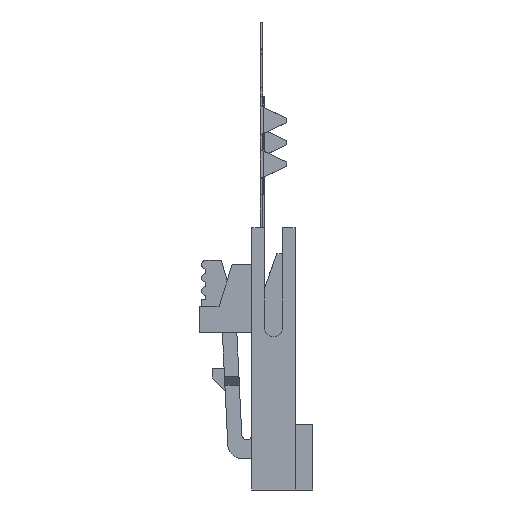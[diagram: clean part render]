
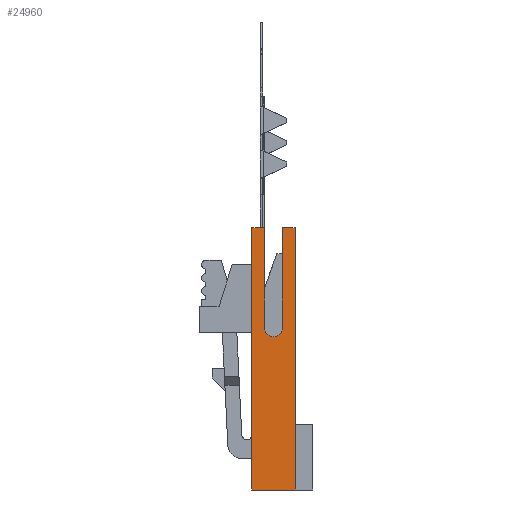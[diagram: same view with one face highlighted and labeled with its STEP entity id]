
A CAD part, left-side view. The second image highlights one B-rep face of the part: STEP entity #24960.
In plain terms, the highlighted planar face has unit normal (-1, 0, 0).
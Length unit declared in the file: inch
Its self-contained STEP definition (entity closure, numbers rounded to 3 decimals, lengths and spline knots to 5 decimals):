
#17=DIRECTION('',(0.,1.,0.));
#18=VECTOR('',#17,0.0295);
#19=CARTESIAN_POINT('',(-0.6995,0.,0.));
#20=LINE('',#19,#18);
#193=DIRECTION('',(0.,1.,0.));
#194=VECTOR('',#193,0.0295);
#195=CARTESIAN_POINT('',(-0.6995,0.0695,0.));
#196=LINE('',#195,#194);
#578=DIRECTION('',(0.,0.,-1.));
#579=VECTOR('',#578,0.6);
#580=CARTESIAN_POINT('',(-0.6995,0.099,0.));
#581=LINE('',#580,#579);
#4563=DIRECTION('',(0.,1.,0.));
#4564=VECTOR('',#4563,0.099);
#4565=CARTESIAN_POINT('',(-0.6995,0.,-0.6));
#4566=LINE('',#4565,#4564);
#6005=DIRECTION('',(0.,0.,-1.));
#6006=VECTOR('',#6005,0.23);
#6007=CARTESIAN_POINT('',(-0.6995,0.0295,0.));
#6008=LINE('',#6007,#6006);
#6009=DIRECTION('',(0.,0.,-1.));
#6010=VECTOR('',#6009,0.6);
#6011=CARTESIAN_POINT('',(-0.6995,0.,0.));
#6012=LINE('',#6011,#6010);
#6013=DIRECTION('',(0.,0.,-1.));
#6014=VECTOR('',#6013,0.23);
#6015=CARTESIAN_POINT('',(-0.6995,0.0695,0.));
#6016=LINE('',#6015,#6014);
#6017=CARTESIAN_POINT('',(-0.6995,0.0495,-0.23));
#6018=DIRECTION('',(1.,0.,0.));
#6019=DIRECTION('',(0.,-1.,0.));
#6020=AXIS2_PLACEMENT_3D('',#6017,#6018,#6019);
#13542=CARTESIAN_POINT('',(-0.6995,0.,0.));
#13544=VERTEX_POINT('',#13542);
#13549=CARTESIAN_POINT('',(-0.6995,0.,-0.6));
#13550=CARTESIAN_POINT('',(-0.6995,0.099,-0.6));
#13551=VERTEX_POINT('',#13549);
#13552=VERTEX_POINT('',#13550);
#13555=CARTESIAN_POINT('',(-0.6995,0.099,0.));
#13556=VERTEX_POINT('',#13555);
#13565=CARTESIAN_POINT('',(-0.6995,0.0295,0.));
#13566=CARTESIAN_POINT('',(-0.6995,0.0295,-0.23));
#13567=VERTEX_POINT('',#13565);
#13568=VERTEX_POINT('',#13566);
#13569=CARTESIAN_POINT('',(-0.6995,0.0695,-0.23));
#13570=VERTEX_POINT('',#13569);
#13571=CARTESIAN_POINT('',(-0.6995,0.0695,0.));
#13572=VERTEX_POINT('',#13571);
#24945=CARTESIAN_POINT('',(-0.6995,0.,0.));
#24946=DIRECTION('',(-1.,0.,0.));
#24947=DIRECTION('',(0.,1.,0.));
#24948=AXIS2_PLACEMENT_3D('',#24945,#24946,#24947);
#24949=PLANE('',#24948);
#24950=ORIENTED_EDGE('',*,*,#24749,.F.);
#24951=ORIENTED_EDGE('',*,*,#17789,.F.);
#24952=ORIENTED_EDGE('',*,*,#23460,.T.);
#24953=ORIENTED_EDGE('',*,*,#22975,.T.);
#24954=ORIENTED_EDGE('',*,*,#18332,.F.);
#24955=ORIENTED_EDGE('',*,*,#17913,.F.);
#24956=ORIENTED_EDGE('',*,*,#22456,.T.);
#24957=ORIENTED_EDGE('',*,*,#22680,.F.);
#24958=EDGE_LOOP('',(#24950,#24951,#24952,#24953,#24954,#24955,#24956,#24957));
#24959=FACE_OUTER_BOUND('',#24958,.F.);
#24960=ADVANCED_FACE('',(#24959),#24949,.T.);
#6021=CIRCLE('',#6020,0.02);
#17789=EDGE_CURVE('',#13544,#13567,#20,.T.);
#17913=EDGE_CURVE('',#13572,#13556,#196,.T.);
#18332=EDGE_CURVE('',#13556,#13552,#581,.T.);
#22456=EDGE_CURVE('',#13572,#13570,#6016,.T.);
#22680=EDGE_CURVE('',#13568,#13570,#6021,.T.);
#22975=EDGE_CURVE('',#13551,#13552,#4566,.T.);
#23460=EDGE_CURVE('',#13544,#13551,#6012,.T.);
#24749=EDGE_CURVE('',#13567,#13568,#6008,.T.);
